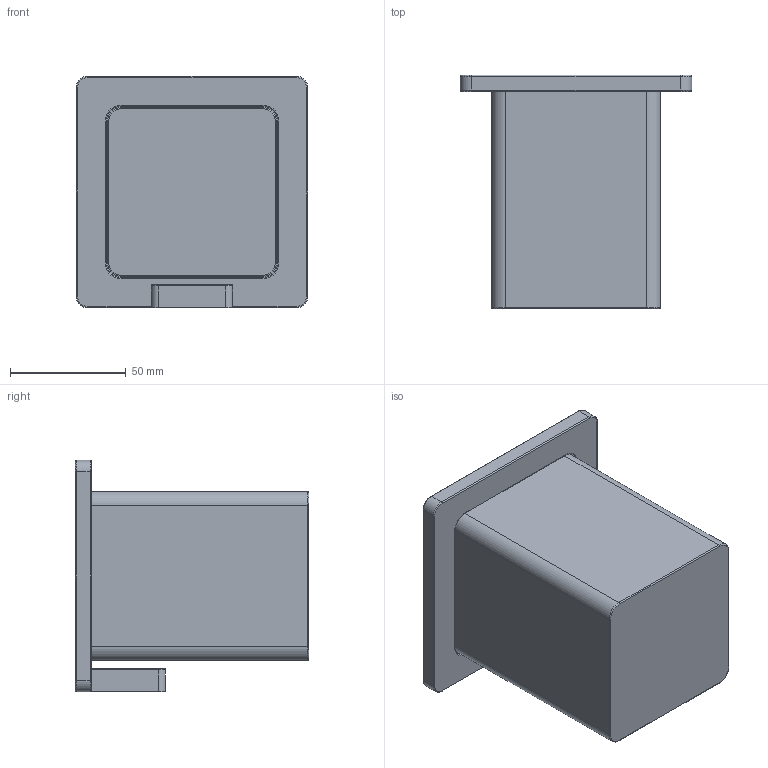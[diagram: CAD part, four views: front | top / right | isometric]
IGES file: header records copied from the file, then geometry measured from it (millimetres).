
Start section:  PTC IGES file: yat900.igs
Global section: file name: yat900.igs; native system: Pro/ENGINEER by Parametric Technology Corporation; preprocessor: 2009140; author: damjan; organization: Unknown; date: 20100804.102144; units: millimetre
Bounding box: 100 x 100.9 x 100 mm (x, y, z)
Volume: 80356.6 mm3; surface area: 84234.5 mm2
Topology: 2 solids, 2 shells, 123 faces, 288 edges, 172 vertices
Faces by surface type: revolution 88, bspline 35
